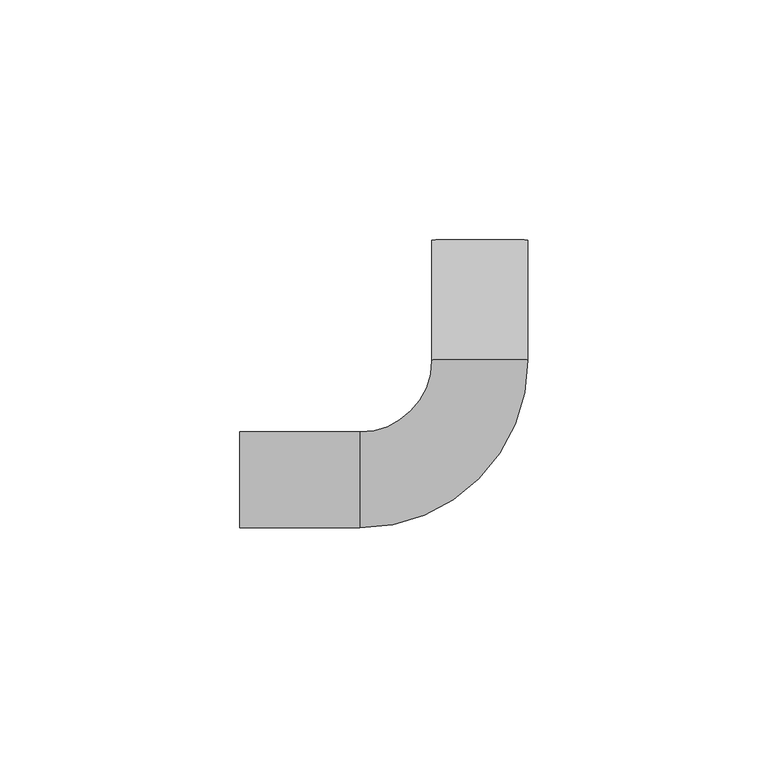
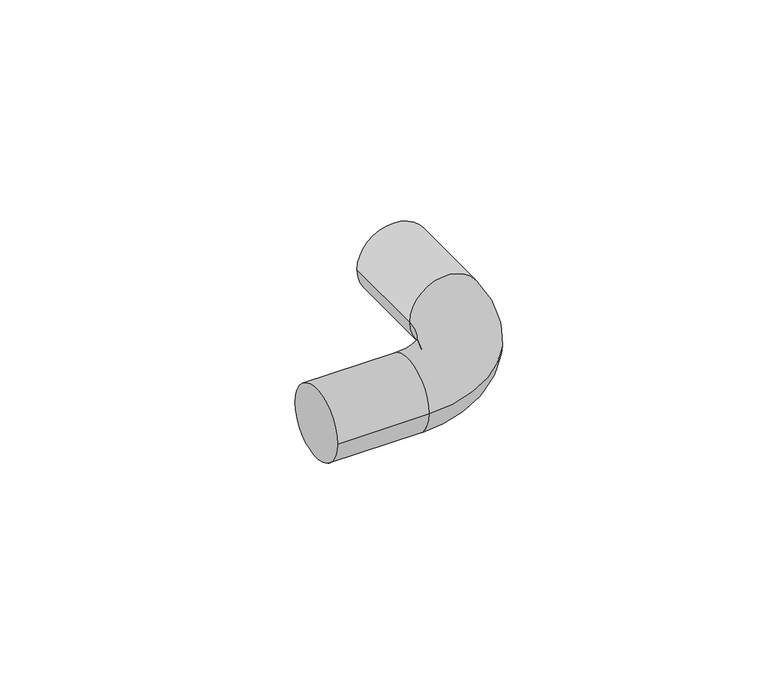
"""IFC4 building model written with IfcOpenShell, lengths in millimetres: cable carrier fitting geometry, Угол_90_соед._для_труб : Угол 90 соед. для трубы 16мм (50шт) серый."""

from ifc_helpers import new_model, si_unit, point, frame, origin, place, context, project, spatial, circle_curve, ellipse_curve, trimmed, source, transform, mapped, element, save
from ifc_brep_helpers import plane_surface, cylinder_surface, revolved_surface, advanced_brep


def cable_carrier_fitting_c9a27e83(model_context):
    return source(origin(), model_context, "Body", "AdvancedBrep", [
        advanced_brep(
        [(-50.0, -10.0, 0.0), (-50.0, 10.0, 0.0), (-25.0, -10.0, 0.0), (-25.0, 10.0, 0.0), (-10.0, 25.0, 0.0), (10.0, 25.0, 0.0), (10.0, 50.0, 0.0), (-10.0, 50.0, 0.0)],
        [
            (0, 1, circle_curve(frame((-50.0, 0.0, 0.0), z_axis=(-1.0, 0.0, 0.0), x_axis=(0.0, 1.0, 0.0)), 10.0)),
            (1, 0, circle_curve(frame((-50.0, 0.0, 0.0), z_axis=(-1.0, 0.0, 0.0), x_axis=(0.0, 1.0, 0.0)), 10.0)),
            (0, 2),
            (2, 3, circle_curve(frame((-25.0, 0.0, 0.0), z_axis=(-1.0, 0.0, 0.0), x_axis=(0.0, 1.0, 0.0)), 10.0)),
            (3, 1),
            (3, 2, circle_curve(frame((-25.0, 0.0, 0.0), z_axis=(-1.0, 0.0, 0.0), x_axis=(0.0, 1.0, 0.0)), 10.0)),
            (4, 3, circle_curve(frame((-25.0, 25.0, 0.0), z_axis=(0.0, 0.0, -1.0), x_axis=(0.0, -1.0, 0.0)), 15.0)),
            (2, 5, circle_curve(frame((-25.0, 25.0, 0.0), z_axis=(0.0, 0.0, 1.0), x_axis=(0.0, -1.0, 0.0)), 35.0)),
            (5, 4, circle_curve(frame((0.0, 25.0, 0.0), z_axis=(0.0, -1.0, 0.0), x_axis=(-1.0, 0.0, 0.0)), 10.0)),
            (4, 5, circle_curve(frame((0.0, 25.0, 0.0), z_axis=(0.0, -1.0, 0.0), x_axis=(-1.0, 0.0, 0.0)), 10.0)),
            (6, 7, circle_curve(frame((0.0, 50.0, 0.0), z_axis=(0.0, 1.0, 0.0), x_axis=(-1.0, 0.0, 0.0)), 10.0)),
            (7, 6, circle_curve(frame((0.0, 50.0, 0.0), z_axis=(0.0, 1.0, 0.0), x_axis=(-1.0, 0.0, 0.0)), 10.0)),
            (5, 6),
            (7, 4),
        ],
        [
            plane_surface(frame((-50.0, 0.0, 0.0), z_axis=(-1.0, 0.0, 0.0), x_axis=(0.0, 0.0, 1.0))),
            cylinder_surface(frame((-50.0, 0.0, 0.0), z_axis=(-1.0, 0.0, 0.0), x_axis=(0.0, 1.0, 0.0)), 10.0),
            revolved_surface(trimmed(ellipse_curve(frame((-25.0, 0.0, 0.0), z_axis=(-1.0, 0.0, 0.0), x_axis=(0.0, 1.0, 0.0)), 10.0, 10.0), [point((-25.0, -10.0, 0.0))], [point((-25.0, 10.0, 0.0))], True, "CARTESIAN"), (-25.0, 25.0, 0.0), (0.0, 0.0, 1.0)),
            revolved_surface(trimmed(ellipse_curve(frame((-25.0, 0.0, 0.0), z_axis=(-1.0, 0.0, 0.0), x_axis=(0.0, 1.0, 0.0)), 10.0, 10.0), [point((-25.0, 10.0, 0.0))], [point((-25.0, -10.0, 0.0))], True, "CARTESIAN"), (-25.0, 25.0, 0.0), (0.0, 0.0, 1.0)),
            plane_surface(frame((0.0, 50.0, 0.0), z_axis=(0.0, 1.0, 0.0), x_axis=(0.0, 0.0, 1.0))),
            cylinder_surface(frame((0.0, 25.0, 0.0), z_axis=(0.0, -1.0, 0.0), x_axis=(-1.0, 0.0, 0.0)), 10.0),
        ],
        [
            (0, [[1, 2]]),
            (1, [[-1, 3, 4, 5]]),
            (1, [[-2, -5, 6, -3]]),
            (2, [[7, -4, 8, 9]]),
            (3, [[-8, -6, -7, 10]]),
            (4, [[11, 12]]),
            (5, [[-9, 13, -12, 14]]),
            (5, [[-10, -14, -11, -13]]),
        ],
    ),
    ])


if __name__ == "__main__":
    model = new_model("IFC4")
    model_context = context("Model", 3, world=origin())
    ifc_project = project(units=[si_unit("LENGTHUNIT", "METRE", prefix="MILLI")], contexts=[model_context])
    site = spatial("IfcSite", under=ifc_project)
    building = spatial("IfcBuilding", under=site)
    placement = place(None, origin())
    cable_carrier_fitting_shape = cable_carrier_fitting_c9a27e83(model_context)
    element("IfcCableCarrierFitting", 1, ObjectType="Угол_90_соед._для_труб : Угол 90 соед. для трубы 16мм (50шт) серый", at=placement, inside=building, context=model_context, shape_type="MappedRepresentation", body=[
        mapped(cable_carrier_fitting_shape, transform((0.0, 0.0, 0.0), x_axis=(1.0, 0.0, 0.0), y_axis=(0.0, 1.0, 0.0), z_axis=(0.0, 0.0, 1.0))),
    ])
    save(model, "model.ifc")
